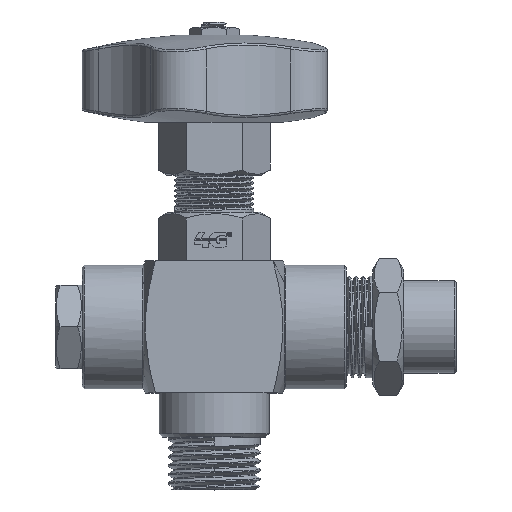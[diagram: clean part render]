
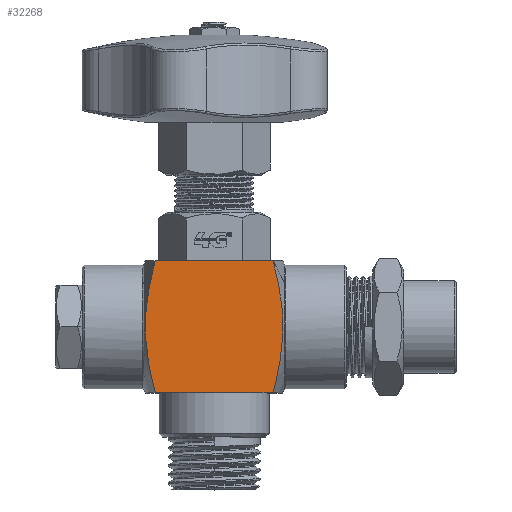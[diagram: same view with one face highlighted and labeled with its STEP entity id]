
A CAD part, top view. The second image highlights one B-rep face of the part: STEP entity #32268.
In plain terms, the highlighted planar face has unit normal (0, 0, 1).
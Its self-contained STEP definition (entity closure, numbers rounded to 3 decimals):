
#3206=DIRECTION('',(-1.,0.,0.));
#3207=VECTOR('',#3206,26.749);
#3208=CARTESIAN_POINT('',(13.375,15.,15.));
#3209=LINE('',#3208,#3207);
#3347=CARTESIAN_POINT('',(-13.375,15.,15.));
#3348=CARTESIAN_POINT('',(-13.644,13.954,15.));
#3349=CARTESIAN_POINT('',(-14.126,11.967,15.));
#3350=CARTESIAN_POINT('',(-14.674,9.369,15.));
#3351=CARTESIAN_POINT('',(-15.093,6.962,15.));
#3352=CARTESIAN_POINT('',(-15.4,4.636,15.));
#3353=CARTESIAN_POINT('',(-15.592,2.323,15.));
#3354=CARTESIAN_POINT('',(-15.658,-0.003,15.));
#3355=CARTESIAN_POINT('',(-15.592,-2.328,15.));
#3356=CARTESIAN_POINT('',(-15.4,-4.641,15.));
#3357=CARTESIAN_POINT('',(-15.093,-6.965,15.));
#3358=CARTESIAN_POINT('',(-14.673,-9.37,15.));
#3359=CARTESIAN_POINT('',(-14.127,-11.966,15.));
#3360=CARTESIAN_POINT('',(-13.644,-13.953,15.));
#3361=CARTESIAN_POINT('',(-13.375,-15.,15.));
#3366=CARTESIAN_POINT('',(13.375,15.,15.));
#3367=CARTESIAN_POINT('',(13.625,14.026,15.));
#3368=CARTESIAN_POINT('',(14.077,12.174,15.));
#3369=CARTESIAN_POINT('',(14.598,9.743,15.));
#3370=CARTESIAN_POINT('',(15.006,7.496,15.));
#3371=CARTESIAN_POINT('',(15.316,5.337,15.));
#3372=CARTESIAN_POINT('',(15.53,3.206,15.));
#3373=CARTESIAN_POINT('',(15.641,1.069,15.));
#3374=CARTESIAN_POINT('',(15.641,-1.074,15.));
#3375=CARTESIAN_POINT('',(15.53,-3.211,15.));
#3376=CARTESIAN_POINT('',(15.316,-5.342,15.));
#3377=CARTESIAN_POINT('',(15.006,-7.499,15.));
#3378=CARTESIAN_POINT('',(14.598,-9.744,15.));
#3379=CARTESIAN_POINT('',(14.077,-12.174,15.));
#3380=CARTESIAN_POINT('',(13.625,-14.025,15.));
#3381=CARTESIAN_POINT('',(13.375,-15.,15.));
#3386=DIRECTION('',(-1.,0.,0.));
#3387=VECTOR('',#3386,26.749);
#3388=CARTESIAN_POINT('',(13.375,-15.,15.));
#3389=LINE('',#3388,#3387);
#17075=CARTESIAN_POINT('',(-13.375,-15.,15.));
#17094=CARTESIAN_POINT('',(13.375,-15.,15.));
#27469=VERTEX_POINT('',#17094);
#27470=VERTEX_POINT('',#3366);
#27473=VERTEX_POINT('',#17075);
#27474=VERTEX_POINT('',#3347);
#32255=CARTESIAN_POINT('',(16.,-15.,15.));
#32256=DIRECTION('',(0.,0.,1.));
#32257=DIRECTION('',(0.,1.,0.));
#32258=AXIS2_PLACEMENT_3D('',#32255,#32256,#32257);
#32259=PLANE('',#32258);
#32260=ORIENTED_EDGE('',*,*,#32245,.F.);
#32261=ORIENTED_EDGE('',*,*,#32127,.F.);
#32263=ORIENTED_EDGE('',*,*,#32262,.T.);
#32265=ORIENTED_EDGE('',*,*,#32264,.T.);
#32266=EDGE_LOOP('',(#32260,#32261,#32263,#32265));
#32267=FACE_OUTER_BOUND('',#32266,.F.);
#32268=ADVANCED_FACE('',(#32267),#32259,.T.);
#3362=B_SPLINE_CURVE_WITH_KNOTS('',3,(#3347,#3348,#3349,#3350,#3351,#3352,#3353,
#3354,#3355,#3356,#3357,#3358,#3359,#3360,#3361),.UNSPECIFIED.,.F.,.F.,(4,1,1,1,
1,1,1,1,1,1,1,1,4),(0.,0.083,0.167,0.25,
0.333,0.417,0.5,0.583,0.667,
0.75,0.833,0.917,1.),.UNSPECIFIED.);
#3382=B_SPLINE_CURVE_WITH_KNOTS('',3,(#3366,#3367,#3368,#3369,#3370,#3371,#3372,
#3373,#3374,#3375,#3376,#3377,#3378,#3379,#3380,#3381),.UNSPECIFIED.,.F.,.F.,(4,
1,1,1,1,1,1,1,1,1,1,1,1,4),(0.,0.077,0.154,
0.231,0.308,0.385,0.462,
0.538,0.615,0.692,0.769,
0.846,0.923,1.),.UNSPECIFIED.);
#32127=EDGE_CURVE('',#27470,#27474,#3209,.T.);
#32245=EDGE_CURVE('',#27474,#27473,#3362,.T.);
#32262=EDGE_CURVE('',#27470,#27469,#3382,.T.);
#32264=EDGE_CURVE('',#27469,#27473,#3389,.T.);
